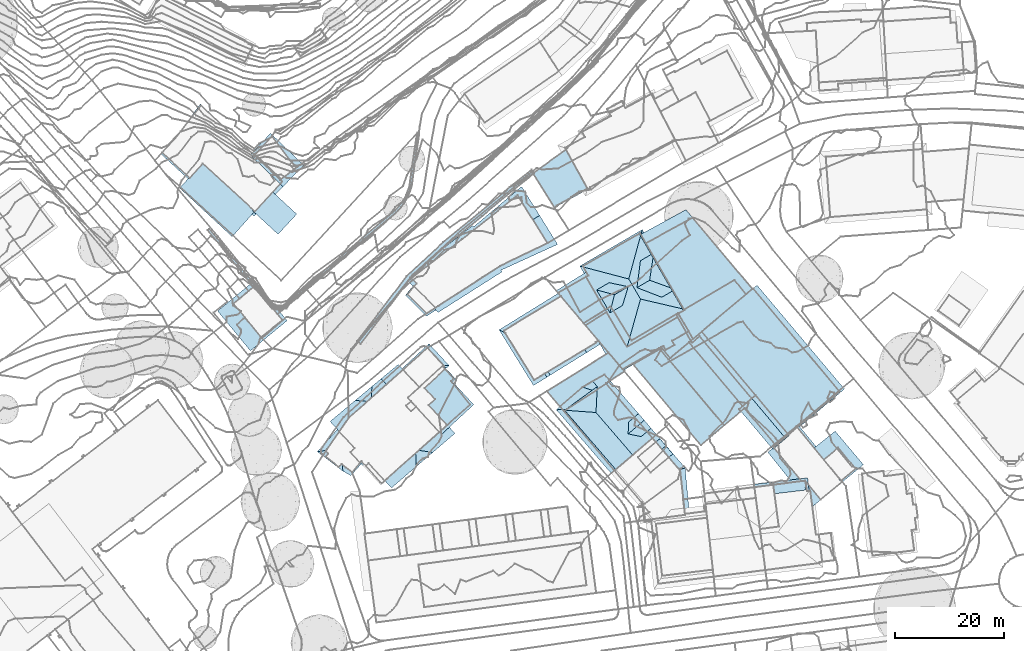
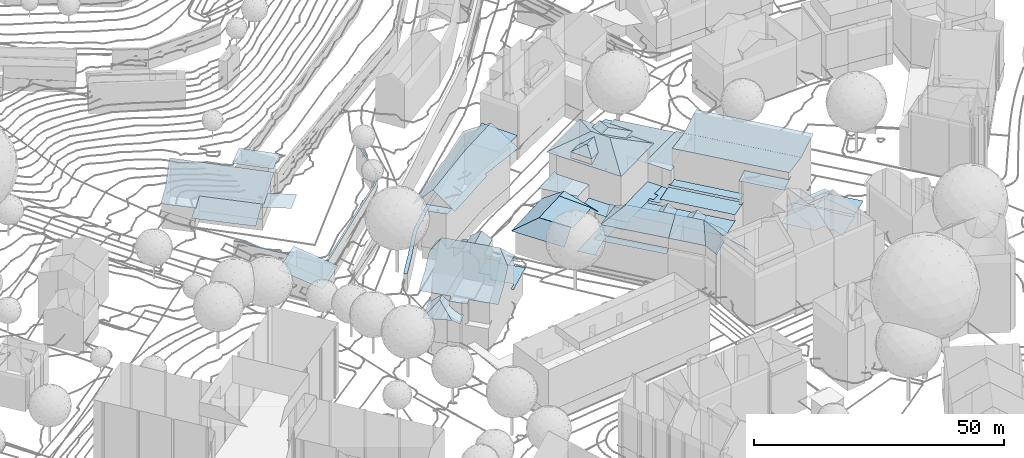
# Not in any storey, part 74 of 494: 30 roofs.
"""IFC2X3 model written with IfcOpenShell, lengths in metres."""

from ifc_helpers import new_model, si_unit, frame, origin_with_axes, place, context, subcontext, project, faceted_brep, element, save


model = new_model("IFC2X3")

# Units and contexts
model_context = context("Model", 3, precision=1e-05, world=origin_with_axes())
body_context = subcontext(model_context, "Body", "Model", "MODEL_VIEW")
ifc_project = project(units=[si_unit("AREAUNIT", "SQUARE_METRE"), si_unit("LENGTHUNIT", "METRE")], contexts=[model_context])

# Roofs
roof_1_placement = place(None, frame((211.8297320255, 101.9383160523, 526.7541), z_axis=(0.0, 0.0, 1.0), x_axis=(1.0, 0.0, 0.0)))
element("IfcRoof", 1, at=roof_1_placement, Name="Roof 69", ShapeType="NOTDEFINED", context=body_context, shape_type="Brep", body=[
    faceted_brep([(224.887000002, 149.7558000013, -15.5485), (224.5700000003, 149.4979999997, -15.5485), (230.6209999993, 142.6094000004, -15.6225), (230.3049999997, 142.3515000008, -15.6225), (223.8020000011, 150.4354999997, -15.1775), (224.1130000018, 150.6992000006, -15.1775), (222.6460000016, 152.3729999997, -15.1775), (222.3390000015, 152.1055000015, -15.1775), (230.9900000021, 141.8486000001, -15.6525), (232.3399999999, 140.2138000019, -15.7305), (230.8289999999, 141.7168000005, -15.6525), (234.2780000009, 137.8662, -15.8445), (234.381000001, 138.0487999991, -15.8445), (235.8020000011, 137.4208999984, -15.6965), (235.6790000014, 137.8515000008, -15.6965), (251.1520000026, 150.495099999, -15.6225), (250.8890000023, 150.807599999, -15.6225), (234.4810000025, 137.620099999, -15.8165), (256.7200000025, 155.6875, -15.6225), (257.0040000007, 155.3935000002, -15.6225), (258.4030000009, 156.9530999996, -15.6225), (258.0700000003, 157.1942999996, -15.6225), (259.2550000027, 158.433600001, -15.6225), (258.882000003, 158.6044999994, -15.6225), (259.8830000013, 160.2391999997, -15.6225), (259.4840000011, 160.3339999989, -15.6225), (260.3660000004, 163.8740000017, -15.6225), (259.9620000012, 163.9316000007, -15.6225), (261.2530000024, 169.8222000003, -15.5485), (260.8489999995, 169.8828000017, -15.5485)], [[[0, 1, 2]], [[3, 2, 1]], [[0, 4, 1]], [[4, 0, 5]], [[4, 5, 6]], [[6, 7, 4]], [[2, 8, 9]], [[10, 8, 3]], [[3, 8, 2]], [[11, 12, 2]], [[11, 2, 9]], [[12, 13, 14]], [[14, 13, 15]], [[15, 16, 14]], [[12, 11, 13]], [[17, 13, 11]], [[18, 15, 19]], [[18, 19, 20]], [[18, 16, 15]], [[21, 18, 20]], [[20, 22, 21]], [[23, 22, 24]], [[22, 23, 21]], [[23, 24, 25]], [[25, 26, 27]], [[26, 25, 24]], [[28, 29, 26]], [[27, 26, 29]]]),
])
roof_2_placement = place(None, frame((211.8297320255, 101.9383160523, 526.7541), z_axis=(0.0, 0.0, 1.0), x_axis=(1.0, 0.0, 0.0)))
element("IfcRoof", 2, at=roof_2_placement, Name="Roof 72", ShapeType="NOTDEFINED", context=body_context, shape_type="Brep", body=[
    faceted_brep([(249.8320000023, 131.75, -20.3871), (250.4350000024, 131.2080000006, -20.3871), (254.3800000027, 136.2890000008, -20.4351), (253.7380000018, 136.7811999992, -20.4351), (258.9550000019, 143.6981999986, -20.2511), (259.5580000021, 143.1543000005, -20.2511), (266.2190000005, 149.3291000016, -20.0661), (265.688000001, 149.9393999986, -20.0661), (272.7919999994, 154.7050999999, -19.7901), (272.2770000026, 155.3280999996, -19.7901), (278.7850000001, 159.7148000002, -19.5142), (278.2740000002, 160.3418000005, -19.5142), (282.4279999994, 162.6162, -19.3302), (281.9240000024, 163.2490000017, -19.3302), (254.3801000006, 136.2890000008, -20.6353), (254.4450000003, 136.375, -20.6331), (259.5579000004, 143.1543999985, -20.4526)], [[[0, 1, 2]], [[2, 3, 0]], [[2, 4, 3]], [[4, 2, 5]], [[6, 4, 5]], [[4, 6, 7]], [[8, 9, 6]], [[7, 6, 9]], [[10, 11, 9]], [[9, 8, 10]], [[12, 13, 10]], [[11, 10, 13]], [[14, 15, 16]]]),
])
roof_3_placement = place(None, frame((498.6247320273, 242.5555160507, 500.7935), z_axis=(0.0, 0.0, 1.0), x_axis=(1.0, 0.0, 0.0)))
element("IfcRoof", 3, at=roof_3_placement, Name="Roof 0", ShapeType="NOTDEFINED", context=body_context, shape_type="Brep", body=[
    faceted_brep([(22.0170000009, -4.4814999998, 4.7325), (20.9739999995, -8.8408999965, 4.7325), (23.6420000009, -7.3046999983, 4.7325), (19.3709999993, -9.7636999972, 4.7325), (18.6279999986, -10.191399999, 4.7325), (12.6730000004, -9.9433999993, 4.7325), (18.7349999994, -10.3310999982, 4.7325), (11.1909999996, -14.7050999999, 4.7325), (19.8000000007, -10.5088, 4.7325), (21.4030000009, -9.5859999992, 4.7325), (8.938000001, -3.5546999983, 4.7325), (7.4419999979, -8.7841999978, 4.7325), (9.0150000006, -11.8085999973, 4.7325), (7.4820000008, -9.0146999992, 4.7325), (7.3389999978, -8.8456999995, 4.7325), (5.0500000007, -5.9618999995, 4.7325)], [[[0, 1, 2]], [[1, 0, 3]], [[0, 4, 3]], [[5, 4, 0]], [[6, 4, 7]], [[1, 3, 8]], [[1, 8, 9]], [[5, 10, 11]], [[7, 5, 12]], [[5, 7, 4]], [[13, 5, 11]], [[13, 12, 5]], [[11, 14, 13]], [[11, 10, 15]]]),
])
roof_4_placement = place(None, frame((498.6247320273, 242.5555160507, 500.7935), z_axis=(0.0, 0.0, 1.0), x_axis=(1.0, 0.0, 0.0)))
element("IfcRoof", 4, at=roof_4_placement, Name="Roof 1", ShapeType="NOTDEFINED", context=body_context, shape_type="Brep", body=[
    faceted_brep([(-0.4570000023, 0.3633000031, 7.9963), (2.6270000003, -3.2792999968, 7.9962), (2.7259999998, -3.2177999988, 7.9962), (5.1400000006, 2.942400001, 7.9962), (5.2029999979, 3.8652000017, 7.9962), (5.5850000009, 3.1972000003, 7.9962), (3.7190000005, -4.3896999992, 7.9962), (8.938000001, -3.5546999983, 7.9962), (3.618999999, -4.4521999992, 7.9962), (4.9499999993, -6.0234999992, 7.9962)], [[[0, 1, 2]], [[0, 2, 3]], [[4, 3, 5]], [[3, 4, 0]], [[2, 6, 3]], [[7, 3, 6]], [[6, 8, 9]], [[6, 9, 7]]]),
])
roof_5_placement = place(None, frame((498.6247320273, 242.5555160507, 500.7935), z_axis=(0.0, 0.0, 1.0), x_axis=(1.0, 0.0, 0.0)))
element("IfcRoof", 5, at=roof_5_placement, Name="Roof 2", ShapeType="NOTDEFINED", context=body_context, shape_type="Brep", body=[
    faceted_brep([(14.4890000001, 0.9726000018, 15.6295), (19.0489999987, -0.7968999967, 14.1176), (16.8209999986, 2.3340000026, 15.6295), (20.9419999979, 0.8310000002, 14.2956), (21.1669999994, 0.4414000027, 14.1176), (21.4919999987, 0.6308000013, 14.1176), (17.4919999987, 6.8242000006, 14.2746), (17.5689999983, 7.3427000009, 14.1177), (17.2879999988, 7.1787, 14.1177), (15.1259999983, 5.9150000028, 14.1177), (15.1389999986, -1.1298999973, 15.8775), (12.6730000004, -9.9433999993, 12.5368), (23.1449999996, -2.9941999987, 12.9128), (22.0170000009, -4.4814999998, 12.5368), (24.1589999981, -3.2294999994, 12.5368), (21.1669999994, 0.4414000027, 12.8998), (17.2879999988, 7.1787, 12.8748), (19.3969999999, -0.5937999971, 13.9177), (15.4609999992, 11.6513000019, 12.5368), (15.2199999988, 10.7695000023, 12.8608), (15.4739999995, 6.1181000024, 13.9177), (12.9780000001, 2.567400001, 15.8775), (4.699000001, 4.746100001, 12.8058), (3.9739999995, 4.9375, 12.5368), (5.1400000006, 2.942400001, 12.5368), (7.0659999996, 0.5429000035, 12.7668), (9.5240000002, -3.6611999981, 12.7668), (9.0229999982, 1.6875, 13.9177), (9.362999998, 1.8847000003, 14.1177), (11.4809999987, -2.5165999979, 13.9177), (11.8209999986, -2.3183999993, 14.1176), (12.8779999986, 1.1465000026, 15.4695), (7.0659999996, 0.5429000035, 14.1177), (9.5240000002, -3.6611999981, 14.1176), (10.3519999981, -0.3310999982, 15.4695), (16.9589999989, 6.9853000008, 14.1007)], [[[0, 1, 2]], [[2, 1, 3]], [[4, 5, 3]], [[4, 3, 1]], [[3, 5, 6]], [[6, 2, 3]], [[7, 6, 5]], [[7, 8, 6]], [[6, 8, 9]], [[9, 0, 2]], [[9, 2, 6]], [[10, 11, 12]], [[13, 14, 12]], [[13, 12, 11]], [[14, 15, 12]], [[15, 14, 16]], [[12, 15, 17]], [[10, 1, 0]], [[17, 1, 12]], [[1, 10, 12]], [[16, 18, 19]], [[18, 16, 14]], [[16, 19, 20]], [[0, 21, 10]], [[21, 0, 9]], [[9, 20, 19]], [[21, 9, 19]], [[22, 23, 24]], [[25, 24, 26]], [[22, 24, 25]], [[22, 27, 28]], [[27, 22, 25]], [[22, 28, 21]], [[26, 11, 29]], [[11, 26, 24]], [[29, 11, 30]], [[21, 31, 10]], [[28, 31, 21]], [[30, 10, 31]], [[10, 30, 11]], [[19, 18, 22]], [[19, 22, 21]], [[22, 18, 23]], [[32, 33, 34]], [[31, 28, 34]], [[32, 34, 28]], [[34, 33, 30]], [[30, 31, 34]], [[9, 8, 35]]]),
])
roof_6_placement = place(None, frame((509.0277320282, 209.8641160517, 500.1695), z_axis=(0.0, 0.0, 1.0), x_axis=(1.0, 0.0, 0.0)))
element("IfcRoof", 6, at=roof_6_placement, Name="Roof 1", ShapeType="NOTDEFINED", context=body_context, shape_type="Brep", body=[
    faceted_brep([(6.5099999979, 4.3486000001, 12.3828), (9.4129999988, 4.5780999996, 13.5887), (7.5979999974, 5.2714000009, 12.3828), (6.6549999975, 2.2382000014, 13.5887), (8.310999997, 5.8769000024, 12.3828), (8.9100000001, 1.5654000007, 12.3828), (9.9829999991, 2.4755000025, 12.3828), (10.6889999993, 3.0742000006, 12.3828), (3.3189999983, 2.8379000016, 15.6195), (0.2079999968, 0.1787, 12.4798), (7.2619999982, -1.7364000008, 15.6195), (5.3200000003, -5.7509999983, 12.4798), (12.9419999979, 0.5371000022, 10.118), (9.9829999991, 2.4755000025, 11.045), (11.9649999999, 0.1523000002, 11.0599), (7.7170000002, 6.5976000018, 10.1181), (9.0709999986, 1.7010999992, 12.1828), (10.492999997, -0.4267999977, 12.4798), (7.5979999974, 5.2714000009, 11.027), (6.993999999, 5.9794999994, 11.022), (6.6710000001, 4.4853000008, 12.1829), (7.9239999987, -8.8359999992, 15.6195), (11.300999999, -9.0976999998, 12.4798), (7.9769999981, -9.4072999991, 15.6195), (13.818, -8.8623000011, 10.118), (5.6569999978, -9.3594000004, 12.4798), (5.680999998, -9.621100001, 12.4798), (5.6359999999, -9.1367999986, 12.4798)], [[[0, 1, 2]], [[1, 0, 3]], [[1, 4, 2]], [[3, 5, 1]], [[1, 5, 6]], [[6, 7, 1]], [[8, 9, 10]], [[11, 10, 9]], [[12, 13, 14]], [[13, 12, 15]], [[14, 13, 16]], [[3, 10, 17]], [[16, 5, 17]], [[17, 14, 16]], [[3, 17, 5]], [[18, 15, 19]], [[15, 18, 13]], [[18, 19, 20]], [[0, 8, 3]], [[0, 20, 19]], [[19, 8, 0]], [[3, 8, 10]], [[21, 22, 10]], [[21, 23, 22]], [[22, 24, 17]], [[17, 24, 14]], [[10, 22, 17]], [[14, 24, 12]], [[23, 25, 26]], [[25, 23, 21]], [[21, 10, 11]], [[11, 27, 21]], [[21, 27, 25]]]),
])
roof_7_placement = place(None, frame((512.3577320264, 229.5457160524, 499.1847), z_axis=(0.0, 0.0, 1.0), x_axis=(1.0, 0.0, 0.0)))
element("IfcRoof", 7, at=roof_7_placement, Name="Roof 0", ShapeType="NOTDEFINED", context=body_context, shape_type="Brep", body=[
    faceted_brep([(2.4330000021, 22.1367000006, 9.0281), (1.2910000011, 23.7001999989, 9.0281), (2.4640000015, 21.6660000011, 9.0281), (2.6059999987, 21.7441000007, 9.0281), (11.0240000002, 26.817400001, 9.0281), (9.762000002, 28.3154000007, 9.0281)], [[[0, 1, 2]], [[0, 2, 3]], [[0, 4, 5]], [[0, 5, 1]]]),
])
roof_8_placement = place(None, frame((512.3577320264, 229.5457160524, 499.1847), z_axis=(0.0, 0.0, 1.0), x_axis=(1.0, 0.0, 0.0)))
element("IfcRoof", 8, at=roof_8_placement, Name="Roof 1", ShapeType="NOTDEFINED", context=body_context, shape_type="Brep", body=[
    faceted_brep([(25.751000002, -15.7626999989, 12.7847), (28.8060000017, -13.191399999, 13.4926), (27.9970000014, -13.6240000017, 13.3336), (28.6840000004, -13.0458999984, 13.4926), (21.9180000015, -6.4072000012, 13.3336), (19.8770000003, -8.7890999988, 12.7847), (19.5500000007, -8.4013999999, 12.7847)], [[[0, 1, 2]], [[2, 1, 3]], [[2, 4, 5]], [[6, 5, 4]], [[2, 5, 0]]]),
])
roof_9_placement = place(None, frame((512.3577320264, 229.5457160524, 499.1847), z_axis=(0.0, 0.0, 1.0), x_axis=(1.0, 0.0, 0.0)))
element("IfcRoof", 9, at=roof_9_placement, Name="Roof 2", ShapeType="NOTDEFINED", context=body_context, shape_type="Brep", body=[
    faceted_brep([(22.0300000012, 13.7490000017, 9.441), (18.7419999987, 15.3828000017, 9.441), (20.8209999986, 12.7314999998, 9.441), (11.0240000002, 26.817400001, 9.4411), (2.25, 22.0370999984, 9.4411), (9.4670000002, 9.9199000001, 9.441), (9.3399999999, 9.7393000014, 9.441), (9.5139999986, 9.8388999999, 9.441)], [[[0, 1, 2]], [[1, 0, 3]], [[4, 5, 1]], [[6, 5, 4]], [[5, 6, 7]], [[4, 1, 3]]]),
])
roof_10_placement = place(None, frame((512.3577320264, 229.5457160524, 499.1847), z_axis=(0.0, 0.0, 1.0), x_axis=(1.0, 0.0, 0.0)))
element("IfcRoof", 10, at=roof_10_placement, Name="Roof 3", ShapeType="NOTDEFINED", context=body_context, shape_type="Brep", body=[
    faceted_brep([(6.6160000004, 0.7646999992, 6.3413), (6.0670000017, 2.5009999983, 6.3413), (4.8949999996, 2.8183999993, 6.3413), (7.6700000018, 3.4237999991, 6.3413), (5.6380000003, 3.246100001, 6.3413), (10.693, 4.2001999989, 6.3413), (9.8399999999, 5.6649999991, 6.3413), (7.2410000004, 4.1689999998, 6.3413)], [[[0, 1, 2]], [[1, 0, 3]], [[4, 2, 1]], [[3, 5, 6]], [[5, 3, 0]], [[6, 7, 3]]]),
])
roof_11_placement = place(None, frame((512.3577320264, 229.5457160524, 499.1847), z_axis=(0.0, 0.0, 1.0), x_axis=(1.0, 0.0, 0.0)))
element("IfcRoof", 11, at=roof_11_placement, Name="Roof 4", ShapeType="NOTDEFINED", context=body_context, shape_type="Brep", body=[
    faceted_brep([(9.8399999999, 5.6649999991, 10.8489), (10.9149999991, 3.8183999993, 10.8489), (12.0340000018, 5.3291000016, 10.8489), (9.4670000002, 9.9199000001, 10.8489), (7.9010000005, 8.9970999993, 10.8489), (12.3099999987, 5.0009999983, 10.8489), (20.8209999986, 12.7314000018, 10.8489), (18.7419999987, 15.3828000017, 10.8489)], [[[0, 1, 2]], [[3, 4, 0]], [[2, 1, 5]], [[6, 7, 0]], [[3, 0, 7]], [[0, 2, 6]]]),
])
roof_12_placement = place(None, frame((512.3577320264, 229.5457160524, 499.1847), z_axis=(0.0, 0.0, 1.0), x_axis=(1.0, 0.0, 0.0)))
element("IfcRoof", 12, at=roof_12_placement, Name="Roof 5", ShapeType="NOTDEFINED", context=body_context, shape_type="Brep", body=[
    faceted_brep([(20.6429999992, -8.2763999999, 7.0562), (19.8770000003, -8.7890999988, 7.1012), (16.8920000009, -11.4365000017, 7.2982), (20.5670000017, -8.2060000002, 7.0572), (16.8289999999, -11.3632999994, 7.2982), (19.5500000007, -8.4013999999, 7.1012), (10.3460000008, 3.9072000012, 7.0583), (6.6150000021, 0.7637000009, 7.2982), (20.2410000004, -7.8192999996, 7.0572)], [[[0, 1, 2]], [[1, 0, 3]], [[4, 2, 1]], [[1, 5, 4]], [[5, 6, 7]], [[6, 5, 8]], [[5, 7, 4]]]),
])
roof_13_placement = place(None, frame((512.3577320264, 229.5457160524, 499.1847), z_axis=(0.0, 0.0, 1.0), x_axis=(1.0, 0.0, 0.0)))
element("IfcRoof", 13, at=roof_13_placement, Name="Roof 6", ShapeType="NOTDEFINED", context=body_context, shape_type="Brep", body=[
    faceted_brep([(28.118999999, -13.7685000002, 15.0424), (33.4770000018, -9.2558999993, 14.1765), (27.9970000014, -13.6240000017, 15.0424), (17.3909999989, 9.8418000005, 14.1766), (12.0340000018, 5.3291000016, 15.0425), (38.9250000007, -4.6680000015, 15.2594), (22.0300000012, 13.7490000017, 15.0985), (22.8390000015, 14.4296999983, 15.2595)], [[[0, 1, 2]], [[2, 3, 4]], [[3, 2, 1]], [[1, 5, 6]], [[6, 3, 1]], [[6, 5, 7]]]),
])
roof_14_placement = place(None, frame((512.3577320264, 229.5457160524, 499.1847), z_axis=(0.0, 0.0, 1.0), x_axis=(1.0, 0.0, 0.0)))
element("IfcRoof", 14, at=roof_14_placement, Name="Roof 7", ShapeType="NOTDEFINED", context=body_context, shape_type="Brep", body=[
    faceted_brep([(10.3460000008, 3.9072000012, 7.5842), (10.9149999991, 3.8183999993, 7.5842), (10.693, 4.1992000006, 7.5842), (20.2309999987, -7.8271000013, 7.5842), (12.3099999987, 5.0009999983, 7.5842), (21.9180000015, -6.4072000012, 7.5842)], [[[0, 1, 2]], [[1, 0, 3]], [[4, 1, 5]], [[5, 1, 3]]]),
])
roof_15_placement = place(None, frame((512.3577320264, 229.5457160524, 499.1847), z_axis=(0.0, 0.0, 1.0), x_axis=(1.0, 0.0, 0.0)))
element("IfcRoof", 15, at=roof_15_placement, Name="Roof 8", ShapeType="NOTDEFINED", context=body_context, shape_type="Brep", body=[
    faceted_brep([(5.0419999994, 3.2637000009, 5.7954), (4.8949999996, 2.8183999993, 5.7954), (5.2470000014, 3.0214999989, 5.7954), (-0.2010000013, 0.2402000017, 5.7954), (12.6079999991, -15.0449000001, 5.7954), (17.1400000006, -11.0995999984, 5.7954), (16.8289999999, -11.3632999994, 5.7954), (17.2030000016, -11.1748000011, 5.7954)], [[[0, 1, 2]], [[1, 0, 3]], [[3, 4, 1]], [[5, 6, 7]], [[7, 6, 4]], [[6, 1, 4]]]),
])
roof_16_placement = place(None, frame((547.5217320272, 211.8914160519, 499.8985), z_axis=(0.0, 0.0, 1.0), x_axis=(1.0, 0.0, 0.0)))
element("IfcRoof", 16, at=roof_16_placement, Name="Roof 0", ShapeType="NOTDEFINED", context=body_context, shape_type="Brep", body=[
    faceted_brep([(2.0429999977, 5.2529000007, 5.3795), (-1.9210000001, 2.0518000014, 5.3795), (3.2280000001, -4.2313999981, 5.3795), (7.245000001, -0.927699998, 5.3795)], [[[0, 1, 2]], [[2, 3, 0]]]),
])
roof_17_placement = place(None, frame((534.7547320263, 206.7918160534, 499.1526), z_axis=(0.0, 0.0, 1.0), x_axis=(1.0, 0.0, 0.0)))
element("IfcRoof", 17, at=roof_17_placement, Name="Roof 0", ShapeType="NOTDEFINED", context=body_context, shape_type="Brep", body=[
    faceted_brep([(9.7470000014, 1.745099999, 14.2056), (9.3029999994, 0.0742000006, 14.2056), (9.5300000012, 0.1006000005, 14.2056), (3.4640000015, 0.4452999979, 14.2056), (10.0350000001, -0.6553000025, 14.2056), (9.6669999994, -0.7021000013, 14.2056), (-0.0760000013, 0.5683999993, 14.2056), (0.0, 0.0, 14.2056), (3.6799999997, -1.1797000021, 14.2056), (9.3709999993, -0.4979999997, 14.2056)], [[[0, 1, 2]], [[1, 0, 3]], [[4, 2, 5]], [[2, 4, 0]], [[3, 6, 7]], [[6, 3, 0]], [[8, 9, 1]], [[8, 1, 3]]]),
])
roof_18_placement = place(None, frame((538.2627320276, 214.1619160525, 498.9856), z_axis=(0.0, 0.0, 1.0), x_axis=(1.0, 0.0, 0.0)))
element("IfcRoof", 18, at=roof_18_placement, Name="Roof 0", ShapeType="NOTDEFINED", context=body_context, shape_type="Brep", body=[
    faceted_brep([(12.9659999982, -6.1083999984, 5.6424), (12.4529999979, -6.1552999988, 5.6424), (8.699000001, -9.6191000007, 5.6424), (5.8339999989, -6.1689000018, 5.6425), (12.7809999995, -5.8847999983, 5.6424), (6.7639999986, -7.9941000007, 5.6425), (7.1380000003, -10.9043000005, 5.6424), (9.2589999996, -2.2705000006, 5.6425), (9.574000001, -2.0106999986, 5.6425), (4.6629999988, 3.9219000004, 5.6425), (-1.0850000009, -0.9131000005, 5.6425), (6.1589999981, -8.0722999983, 5.6425), (3.3719999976, -6.4862999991, 5.6425)], [[[0, 1, 2]], [[2, 1, 3]], [[4, 1, 0]], [[2, 5, 6]], [[7, 3, 1]], [[2, 3, 5]], [[7, 8, 9]], [[3, 7, 10]], [[9, 10, 7]], [[5, 3, 11]], [[3, 10, 12]]]),
])
roof_19_placement = place(None, frame((496.6027320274, 224.4773160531, 500.1476), z_axis=(0.0, 0.0, 1.0), x_axis=(1.0, 0.0, 0.0)))
element("IfcRoof", 19, at=roof_19_placement, Name="Roof 0", ShapeType="NOTDEFINED", context=body_context, shape_type="Brep", body=[
    faceted_brep([(13.932, 4.0185999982, 4.9925), (11.2899999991, 7.1376999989, 4.9925), (10.5979999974, 3.0557000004, 4.9925), (6.5099999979, 0.7432000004, 4.9925), (11.5889999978, 1.9052999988, 4.9925), (14.0299999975, 4.0742999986, 4.9925), (14.4100000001, 3.6328999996, 4.9925), (10.8959999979, 1.3594000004, 4.9925), (-0.129999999, 0.0605999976, 4.9925), (2.3889999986, -2.8095000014, 4.9925), (3.0709999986, -3.7041000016, 4.9925), (10.8440000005, 1.4199999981, 4.9925), (3.1209999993, -3.6709000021, 4.9925)], [[[0, 1, 2]], [[2, 1, 3]], [[0, 2, 4]], [[5, 0, 6]], [[6, 0, 4]], [[6, 4, 7]], [[3, 8, 9]], [[9, 8, 10]], [[11, 7, 4]], [[10, 12, 9]], [[3, 1, 8]]]),
])
roof_20_placement = place(None, frame((496.6027320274, 224.4773160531, 500.1476), z_axis=(0.0, 0.0, 1.0), x_axis=(1.0, 0.0, 0.0)))
element("IfcRoof", 20, at=roof_20_placement, Name="Roof 1", ShapeType="NOTDEFINED", context=body_context, shape_type="Brep", body=[
    faceted_brep([(2.873999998, -3.3808000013, 10.008), (12.4250000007, -14.6123000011, 9.936), (3.2009999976, -3.495099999, 10.131), (11.7960000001, -15.1502999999, 9.346), (1.682, -3.4189000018, 9.3461), (3.381000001, -3.3641999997, 10.289), (12.6329999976, -14.4345000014, 10.131), (2.3889999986, -2.8095000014, 9.3461), (6.5099999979, 0.7432000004, 9.3461), (8.248999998, 0.1591999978, 10.7379), (9.2129999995, 0.8574999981, 12.5017), (3.2009999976, -3.495099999, 12.5017), (8.9719999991, -3.9209000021, 15.6414), (12.6329999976, -14.4345000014, 12.5017), (15.743999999, -11.7752999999, 15.6414), (14.9749999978, -5.6699000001, 12.4047), (17.8530000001, -5.3368999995, 13.8246), (16.0869999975, -4.7265000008, 12.4047), (14.8849999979, -7.8535000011, 13.8246), (16.813000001, -4.1103000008, 12.4047), (17.2879999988, -8.3535000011, 12.4047), (18.3859999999, -7.4228000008, 12.4047), (19.1050000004, -6.8125, 12.4047), (19.4189999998, -8.633700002, 11.0439), (20.1420000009, -8.0155999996, 10.14), (18.3859999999, -7.4228000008, 11.0359), (16.0869999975, -4.7265000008, 11.0179), (12.1689999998, 1.2324999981, 10.14), (17.449000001, -8.2177000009, 12.2048), (10.5979999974, 3.0557000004, 10.14), (15.1349999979, -5.5331999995, 12.2048), (8.3939999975, 1.808600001, 12.5018), (9.1039999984, 0.7784000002, 12.3018)], [[[0, 1, 2]], [[3, 0, 4]], [[0, 2, 5]], [[6, 2, 1]], [[1, 0, 3]], [[4, 0, 7]], [[7, 0, 8]], [[9, 8, 0]], [[9, 0, 5]], [[10, 11, 12]], [[12, 11, 13]], [[13, 14, 12]], [[15, 16, 17]], [[16, 15, 18]], [[16, 19, 17]], [[18, 20, 16]], [[16, 20, 21]], [[21, 22, 16]], [[23, 24, 25]], [[26, 25, 24]], [[24, 27, 26]], [[23, 25, 28]], [[23, 20, 14]], [[20, 23, 28]], [[20, 18, 14]], [[14, 18, 12]], [[27, 29, 10]], [[15, 30, 10]], [[10, 12, 15]], [[10, 30, 27]], [[29, 31, 10]], [[15, 12, 18]], [[27, 30, 26]], [[10, 31, 32]], [[32, 8, 9]], [[8, 32, 31]]]),
])
roof_21_placement = place(None, frame((488.6637320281, 235.6004160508, 500.5996), z_axis=(0.0, 0.0, 1.0), x_axis=(1.0, 0.0, 0.0)))
element("IfcRoof", 21, at=roof_21_placement, Name="Roof 0", ShapeType="NOTDEFINED", context=body_context, shape_type="Brep", body=[
    faceted_brep([(8.0629999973, -7.5839999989, 8.3581), (4.0539999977, -2.3632999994, 8.8011), (7.8859999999, -8.5556999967, 8.8011), (8.5119999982, -8.1679999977, 8.3081), (14.8599999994, -3.4804999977, 8.3521), (11.368999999, 2.1621000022, 8.8011), (15.1999999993, -4.0292999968, 8.3081), (0.2759999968, -0.4463, 6.4983), (5.4169999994, -10.0829999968, 5.7694), (-0.9200000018, 0.1592000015, 5.7694), (10.4849999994, 6.3359000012, 6.2463), (9.9959999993, 6.9141000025, 5.7694), (13.1089999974, 3.2393000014, 8.8011), (12.2759999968, 4.2226999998, 7.9902), (17.868999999, -2.378899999, 5.3764), (17.4029999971, -1.8290999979, 5.7114)], [[[0, 1, 2]], [[0, 2, 3]], [[4, 5, 0]], [[6, 4, 3]], [[4, 0, 3]], [[0, 5, 1]], [[7, 8, 1]], [[8, 7, 9]], [[8, 2, 1]], [[10, 11, 7]], [[5, 12, 13]], [[13, 10, 7]], [[1, 13, 7]], [[5, 13, 1]], [[7, 11, 9]], [[14, 4, 6]], [[4, 14, 5]], [[12, 5, 15]], [[15, 5, 14]]]),
])
roof_22_placement = place(None, frame((455.8447320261, 213.3826160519, 501.6645), z_axis=(0.0, 0.0, 1.0), x_axis=(1.0, 0.0, 0.0)))
element("IfcRoof", 22, at=roof_22_placement, Name="Roof 1", ShapeType="NOTDEFINED", context=body_context, shape_type="Brep", body=[
    faceted_brep([(21.7829999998, 15.6572000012, 5.7334), (21.6680000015, 15.5527999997, 5.7334), (22.0179999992, 15.1640999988, 5.7334), (23.9350000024, 13.3291000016, 5.7334), (23.376000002, 12.8125, 5.7334), (27.25, 8.6220999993, 5.7334), (20.1680000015, 9.5879000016, 5.7334), (18.2410000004, 11.6709000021, 5.7334), (19.012000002, 8.5196000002, 5.7334), (22.4000000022, 4.8555000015, 5.7334), (20.9640000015, 3.5791000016, 5.7334), (21.3480000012, 3.1640999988, 5.7334)], [[[0, 1, 2]], [[0, 2, 3]], [[4, 3, 2]], [[5, 4, 6]], [[7, 4, 2]], [[7, 6, 4]], [[6, 8, 9]], [[9, 10, 11]], [[9, 11, 5]], [[6, 9, 5]]]),
])
roof_23_placement = place(None, frame((455.8447320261, 213.3826160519, 501.6645), z_axis=(0.0, 0.0, 1.0), x_axis=(1.0, 0.0, 0.0)))
element("IfcRoof", 23, at=roof_23_placement, Name="Roof 2", ShapeType="NOTDEFINED", context=body_context, shape_type="Brep", body=[
    faceted_brep([(8.5140000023, 11.9706999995, 16.6313), (8.4019999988, 9.8280999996, 18.7171), (13.0930000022, 9.2529000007, 14.5735), (13.7970000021, 6.7939999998, 16.1374), (8.3680000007, 9.1719000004, 19.3551), (11.2019999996, 12.316399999, 13.6366), (10.2100000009, 13.3887000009, 13.6366), (13.2019999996, 9.3535000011, 14.3736), (13.6000000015, 9.7217000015, 13.6366), (16.5700000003, 0.3018000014, 19.3551), (17.175999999, 0.2109999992, 18.8351), (16.186999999, 5.9072000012, 14.5735), (19.7129999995, -0.1678999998, 16.6563), (16.2960000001, 6.0069000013, 14.3735), (21.4030000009, 1.2842000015, 13.6366), (16.694000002, 6.376000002, 13.6366), (3.4790000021, 7.759800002, 13.6366), (4.6510000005, 6.4932000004, 13.6366), (5.4299999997, 9.3916000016, 16.8303), (16.5760000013, -0.3222000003, 18.8281), (7.7190000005, 9.2206999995, 18.7981), (13.4890000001, -3.0643999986, 13.6366), (14.7520000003, -4.4305999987, 13.6366), (16.6000000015, -2.8427999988, 16.6973), (13.376000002, 16.0361000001, 11.3569), (14.2829999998, 15.0547000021, 11.3569), (16.6270000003, 12.5205000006, 11.3568), (15.9030000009, 13.3027999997, 11.3568), (23.7989999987, 3.3427999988, 11.5318), (22.4000000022, 4.8555000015, 11.5318), (19.012000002, 8.5195000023, 11.5318), (6.3650000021, -2.0507999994, 10.8069), (7.1579999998, -2.9081999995, 10.8069), (7.4279999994, -2.6581999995, 10.9589), (5.3770000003, 0.5938000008, 11.2499), (7.943, -2.1805999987, 11.2498), (4.5920000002, -0.1327999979, 10.8069), (12.1170000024, -6.6952999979, 11.2498), (10.8940000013, -5.3720999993, 11.2498), (0.813000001, 5.5302999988, 11.2499), (2.5340000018, 3.6689999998, 11.2499), (4.0590000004, 2.0196000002, 11.2499), (20.1680000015, 9.5879000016, 14.5735), (18.6240000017, 11.2569000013, 16.1374), (17.074000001, 12.9345999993, 14.5735), (21.7329999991, 15.8330000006, 9.368), (22.7210000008, 15.8145000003, 8.7201), (18.9400000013, 18.938500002, 9.316), (18.7030000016, 15.8916000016, 11.3568), (19.0089999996, 19.8280999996, 8.7201), (16.0470000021, 13.1484999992, 11.1569), (16.6270000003, 12.5205000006, 10.3479), (17.074000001, 12.9345999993, 10.3479), (22.0179999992, 15.1640999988, 8.7201), (18.2410000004, 11.6709000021, 8.7201), (14.2829999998, 15.0547000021, 9.0111), (12.1739999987, 13.5069000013, 8.7201), (15.7650000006, 13.4521999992, 11.1569), (12.3390000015, 13.3291000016, 8.9591), (6.824000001, -1.9873000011, 7.7572), (6.6119999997, -1.7509999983, 7.9282), (6.3650000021, -2.0507999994, 7.9192), (4.6409999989, -4.4287, 7.7572), (3.1730000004, -3.6015000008, 8.6451), (5.4479999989, -1.058600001, 8.6451), (0.1500000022, 0.2353999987, 9.643), (-1.5219999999, -0.0293000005, 8.6451), (3.0830000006, -2.4393999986, 9.356), (2.8430000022, 0.6592000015, 11.2499), (4.5920000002, -0.1327999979, 9.704), (4.2210000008, 1.8438000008, 11.0499), (5.3770000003, 0.5938000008, 9.619), (3.0720000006, 4.4404000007, 9.0601), (2.7679999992, 4.7686000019, 8.6451), (2.5340000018, 3.6689999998, 9.1651), (3.9129999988, 2.1768000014, 11.0499)], [[[0, 1, 2]], [[1, 3, 2]], [[3, 1, 4]], [[0, 2, 5]], [[6, 0, 5]], [[7, 8, 5]], [[2, 7, 5]], [[3, 9, 10]], [[9, 3, 4]], [[3, 10, 11]], [[11, 10, 12]], [[13, 11, 14]], [[13, 14, 15]], [[11, 12, 14]], [[16, 17, 18]], [[18, 19, 20]], [[4, 20, 9]], [[21, 18, 17]], [[21, 22, 23]], [[19, 9, 20]], [[18, 23, 19]], [[18, 21, 23]], [[6, 5, 24]], [[24, 5, 25]], [[8, 26, 27]], [[25, 5, 27]], [[27, 5, 8]], [[28, 29, 14]], [[14, 30, 15]], [[30, 14, 29]], [[19, 23, 10]], [[10, 9, 19]], [[12, 10, 23]], [[31, 32, 33]], [[34, 33, 35]], [[33, 36, 31]], [[36, 33, 34]], [[22, 21, 37]], [[38, 37, 21]], [[35, 38, 21]], [[21, 34, 35]], [[39, 40, 17]], [[17, 40, 41]], [[39, 17, 16]], [[41, 34, 17]], [[17, 34, 21]], [[42, 43, 11]], [[3, 11, 43]], [[43, 44, 2]], [[2, 3, 43]], [[45, 46, 47]], [[47, 48, 45]], [[49, 47, 46]], [[50, 51, 52]], [[48, 27, 50]], [[53, 46, 45]], [[52, 45, 48]], [[52, 54, 45]], [[52, 48, 50]], [[45, 54, 53]], [[49, 55, 47]], [[55, 49, 56]], [[57, 48, 47]], [[47, 55, 57]], [[57, 27, 48]], [[58, 55, 56]], [[59, 60, 61]], [[61, 62, 59]], [[62, 61, 63]], [[63, 61, 64]], [[65, 66, 67]], [[65, 67, 68]], [[67, 66, 63]], [[69, 68, 67]], [[67, 63, 64]], [[70, 41, 68]], [[70, 69, 71]], [[70, 68, 69]], [[64, 69, 67]], [[72, 73, 74]], [[75, 74, 65]], [[73, 66, 74]], [[68, 75, 65]], [[41, 75, 68]], [[65, 74, 66]], [[1, 0, 18]], [[1, 20, 4]], [[20, 1, 18]]]),
])
roof_24_placement = place(None, frame((438.9327320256, 240.6023160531, 504.1533), z_axis=(0.0, 0.0, 1.0), x_axis=(1.0, 0.0, 0.0)))
element("IfcRoof", 24, at=roof_24_placement, Name="Roof 0", ShapeType="NOTDEFINED", context=body_context, shape_type="Brep", body=[
    faceted_brep([(3.8020000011, 4.2080999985, 8.7861), (-2.9690000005, -1.3662, 8.7861), (3.0810000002, -8.7138000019, 6.3353), (9.8520000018, -3.1385999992, 6.3353)], [[[0, 1, 2]], [[2, 3, 0]]]),
])
roof_25_placement = place(None, frame((425.7767320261, 268.3191160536, 508.9989), z_axis=(0.0, 0.0, 1.0), x_axis=(1.0, 0.0, 0.0)))
element("IfcRoof", 25, at=roof_25_placement, Name="Roof 0", ShapeType="NOTDEFINED", context=body_context, shape_type="Brep", body=[
    faceted_brep([(16.751000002, -10.5263000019, 5.7554), (16.6319999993, -10.6552000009, 5.7554), (17.0710000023, -10.821200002, 5.8023), (20.381000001, -7.2314000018, 5.8023), (21.324000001, -14.9873000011, 6.4483), (24.756000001, -11.2695000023, 6.4483)], [[[0, 1, 2]], [[3, 2, 4]], [[4, 2, 1]], [[5, 3, 4]]]),
])
roof_26_placement = place(None, frame((425.7767320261, 268.3191160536, 508.9989), z_axis=(0.0, 0.0, 1.0), x_axis=(1.0, 0.0, 0.0)))
element("IfcRoof", 26, at=roof_26_placement, Name="Roof 1", ShapeType="NOTDEFINED", context=body_context, shape_type="Brep", body=[
    faceted_brep([(7.199000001, -2.7021000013, 6.9933), (16.9220000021, -11.6611000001, 6.9932), (22.693, -5.7363000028, 9.202), (7.0350000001, 9.0175999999, 9.2661), (2.620000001, 3.0224999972, 7.2892), (-0.2899999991, -0.1269000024, 6.1433), (5.0430000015, -5.0410000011, 6.1433)], [[[0, 1, 2]], [[3, 4, 0]], [[0, 5, 6]], [[5, 0, 4]], [[3, 0, 2]]]),
])
roof_27_placement = place(None, frame((425.7767320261, 268.3191160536, 508.9989), z_axis=(0.0, 0.0, 1.0), x_axis=(1.0, 0.0, 0.0)))
element("IfcRoof", 27, at=roof_27_placement, Name="Roof 2", ShapeType="NOTDEFINED", context=body_context, shape_type="Brep", body=[
    faceted_brep([(5.0830000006, -4.6328000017, 5.8644), (4.9759999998, -4.5351000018, 5.8634), (3.2060000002, -6.4599000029, 5.2044), (17.0280000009, -10.7812000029, 6.8562), (7.4890000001, -1.9912, 6.7653), (12.887000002, -15.4218000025, 5.2894)], [[[0, 1, 2]], [[0, 3, 4]], [[5, 3, 0]], [[0, 2, 5]]]),
])
roof_28_placement = place(None, frame((442.9097320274, 267.9930160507, 509.1738), z_axis=(0.0, 0.0, 1.0), x_axis=(1.0, 0.0, 0.0)))
element("IfcRoof", 28, at=roof_28_placement, Name="Roof 0", ShapeType="NOTDEFINED", context=body_context, shape_type="Brep", body=[
    faceted_brep([(5.1079999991, -5.8740999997, 10.228), (8.9299999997, -1.9511999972, 10.228), (2.8090000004, 3.9277000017, 10.228), (-0.9849999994, -0.0204999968, 10.228)], [[[0, 1, 2]], [[2, 3, 0]]]),
])
roof_29_placement = place(None, frame((470.9207320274, 242.2430160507, 501.6435), z_axis=(0.0, 0.0, 1.0), x_axis=(1.0, 0.0, 0.0)))
element("IfcRoof", 29, at=roof_29_placement, Name="Roof 0", ShapeType="NOTDEFINED", context=body_context, shape_type="Brep", body=[
    faceted_brep([(6.2769999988, -2.0351999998, 11.9248), (6.0830000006, -1.8437999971, 11.9248), (5.1559999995, -2.4404999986, 11.9248), (5.1219999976, -2.7646999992, 11.9248), (5.2129999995, -2.8583999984, 11.9248), (3.5040000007, -3.9609999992, 11.9248), (1.2699999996, 1.5713, 11.9248), (1.6409999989, 2.0302000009, 11.9248), (1.4690000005, 2.2002000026, 11.9248), (-0.3880000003, -0.0995999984, 11.9248), (2.4649999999, -0.0224999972, 15.7994), (14.5979999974, 8.5332000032, 15.7994), (10.0469999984, 10.1718000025, 12.4688), (12.1079999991, 12.4531000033, 11.8998), (11.9399999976, 12.7177000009, 11.6369), (-0.4780000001, 3.0166000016, 11.4399), (2.7390000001, 0.0547000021, 15.7205), (5.6169999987, -3.2753999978, 11.4399), (17.3979999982, 4.1963, 11.4728), (13.8680000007, 3.2002000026, 12.4958), (17.2069999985, 4.4922000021, 11.7678), (16.8110000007, 5.1054000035, 12.3798), (25.050999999, 9.0996000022, 12.4518), (27.5969999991, 9.2373000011, 11.6358), (23.068, 13.8037, 15.7994), (24.2839999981, 14.5605000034, 15.7994), (19.9019999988, 17.9834000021, 12.3698), (20.9699999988, 19.8857000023, 11.6788)], [[[0, 1, 2]], [[2, 3, 0]], [[4, 3, 5]], [[5, 3, 2]], [[2, 6, 5]], [[7, 8, 6]], [[6, 9, 5]], [[9, 6, 8]], [[10, 11, 12]], [[13, 14, 12]], [[13, 12, 11]], [[12, 14, 15]], [[15, 10, 12]], [[16, 10, 17]], [[17, 18, 19]], [[17, 19, 16]], [[20, 21, 19]], [[18, 20, 19]], [[21, 11, 19]], [[19, 11, 16]], [[16, 11, 10]], [[11, 21, 22]], [[20, 23, 22]], [[20, 22, 21]], [[24, 11, 22]], [[24, 23, 25]], [[23, 24, 22]], [[26, 27, 13]], [[13, 11, 26]], [[27, 26, 24]], [[27, 24, 25]], [[24, 26, 11]]]),
])
roof_30_placement = place(None, frame((494.0337320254, 264.5447160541, 502.2364), z_axis=(0.0, 0.0, 1.0), x_axis=(1.0, 0.0, 0.0)))
element("IfcRoof", 30, at=roof_30_placement, Name="Roof 0", ShapeType="NOTDEFINED", context=body_context, shape_type="Brep", body=[
    faceted_brep([(3.9730000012, -6.3047000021, 6.0464), (4.3949999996, -6.0722000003, 6.0464), (0.0, 0.0, 6.0464), (6.0700000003, 4.3662, 6.0464), (10.0910000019, -2.9248000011, 6.0464)], [[[0, 1, 2]], [[3, 2, 1]], [[3, 1, 4]]]),
])

save(model, "model.ifc")
